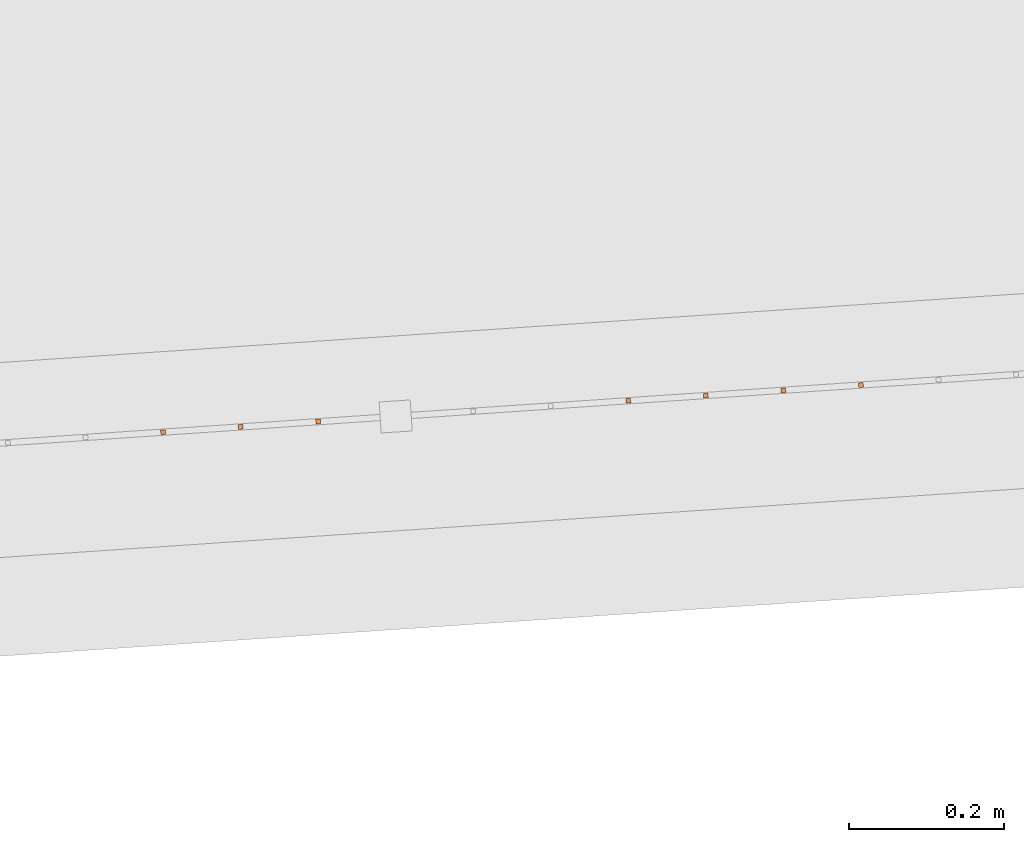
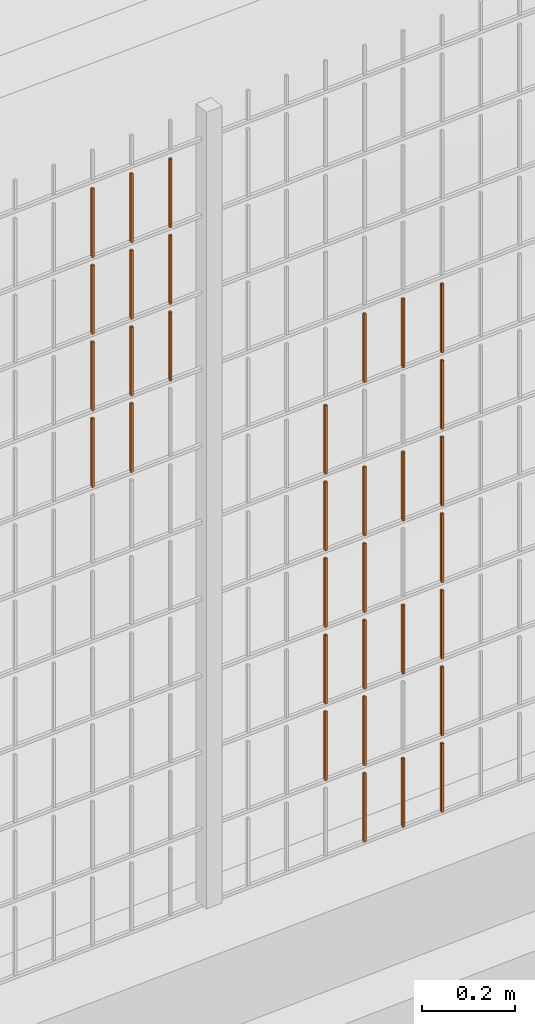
# One storey, part 373 of 1809: 33 proxies, 1 element without a shape of its own.
"""IFC2X3 building model written with IfcOpenShell, lengths in millimetres."""

from ifc_helpers import new_model, entity, si_unit, converted_unit, derived_unit, money_unit, direction, frame, origin_with_axes, place, context, subcontext, project, spatial, faceted_brep, source, transform, mapped, material, type_object, element, aggregate, save


model = new_model("IFC2X3")

# Units and contexts
model_context = context("Model", 3, precision=0.01, world=origin_with_axes(), true_north=direction((0.0, 1.0)))
body_context = subcontext(model_context, "Body", "Model", "MODEL_VIEW")
ifc_project = project(units=[si_unit("LENGTHUNIT", "METRE", prefix="MILLI"), si_unit("AREAUNIT", "SQUARE_METRE"), si_unit("VOLUMEUNIT", "CUBIC_METRE"), converted_unit("PLANEANGLEUNIT", "DEGREE", entity("IfcPlaneAngleMeasure", 0.0174532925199), si_unit("PLANEANGLEUNIT", "RADIAN"), dimensions=[0, 0, 0, 0, 0, 0, 0]), si_unit("SOLIDANGLEUNIT", "STERADIAN"), money_unit("EUR"), converted_unit("TIMEUNIT", "Year", entity("IfcTimeMeasure", 31556926.0), si_unit("TIMEUNIT", "SECOND"), dimensions=[0, 0, 1, 0, 0, 0, 0]), si_unit("MASSUNIT", "GRAM", prefix="KILO"), si_unit("THERMODYNAMICTEMPERATUREUNIT", "DEGREE_CELSIUS"), si_unit("LUMINOUSINTENSITYUNIT", "LUMEN"), si_unit("ENERGYUNIT", "JOULE", prefix="MEGA"), derived_unit("THERMALCONDUCTANCEUNIT", [(si_unit("POWERUNIT", "WATT"), 1), (si_unit("LENGTHUNIT", "METRE"), -1), (si_unit("THERMODYNAMICTEMPERATUREUNIT", "KELVIN"), -1)]), derived_unit("SPECIFICHEATCAPACITYUNIT", [(si_unit("ENERGYUNIT", "JOULE"), 1), (si_unit("MASSUNIT", "GRAM", prefix="KILO"), -1), (si_unit("THERMODYNAMICTEMPERATUREUNIT", "KELVIN"), -1)]), derived_unit("MASSDENSITYUNIT", [(si_unit("MASSUNIT", "GRAM", prefix="KILO"), 1), (si_unit("VOLUMEUNIT", "CUBIC_METRE"), -1)])], contexts=[model_context])

# Site, building, storey
site_placement = place(None, origin_with_axes())
site = spatial("IfcSite", under=ifc_project, at=site_placement, Name="Politse- ja Piirivalveameti ning Päästeameti ühishoone", CompositionType="ELEMENT")
building_placement = place(site_placement, origin_with_axes())
building = spatial("IfcBuilding", under=site, at=building_placement, Name="Politse- ja Piirivalveameti ning Päästeameti ühishoone", CompositionType="ELEMENT")
storey_placement = place(building_placement, origin_with_axes())
storey = spatial("IfcBuildingStorey", under=building, at=storey_placement, Name="Esimene korrus", CompositionType="ELEMENT", Elevation=0.0)

# Proxies
building_element_proxy_type_1 = type_object("IfcBuildingElementProxyType", Name="Railing Type", PredefinedType="NOTDEFINED")
proxy_1_placement = place(storey_placement, frame((89252.001212, -29183.4766571, 203.661247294), z_axis=(0.0, 0.0, 1.0), x_axis=(1.0, 0.0, 0.0)))
proxy_1 = element("IfcBuildingElementProxy", 1, at=proxy_1_placement, inside=storey, type_object=building_element_proxy_type_1, Name="PIIRDEAED")
ifc_material = material(Name="ET-03_Raud")
building_element_proxy_type_2 = type_object("IfcBuildingElementProxyType", Name="IfcBuildingElementProxy", PredefinedType="NOTDEFINED")
shared_shape_1 = source(origin_with_axes(), body_context, "Body", "Brep", [
    faceted_brep([(3.0, 3.0, -0.000752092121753), (-3.0, 3.0, -0.000752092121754), (-3.0, 3.0, 179.99926046), (3.0, 3.0, 179.99926046), (3.0, -3.0, 0.000752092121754), (-3.0, -3.0, 0.000752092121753), (-3.0, -3.0, 180.000764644), (3.0, -3.0, 180.000764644)], [[[0, 1, 2, 3]], [[0, 4, 5, 1]], [[1, 5, 6, 2]], [[3, 2, 6, 7]], [[4, 0, 3, 7]], [[5, 4, 7, 6]]]),
])
proxy_2_placement = place(proxy_1_placement, frame((-19981.1578998, -18647.4265716, 1422.21374743), z_axis=(0.0, 0.0, 1.0), x_axis=(1.0, 0.0, 0.0)))
proxy_2 = element("IfcBuildingElementProxy", 2, at=proxy_2_placement, type_object=building_element_proxy_type_2, material=ifc_material, Name="BALUSTER - 001", context=body_context, shape_type="MappedRepresentation", body=[
    mapped(shared_shape_1, transform((0.0, 0.0, 0.0), x_axis=(-0.0673926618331, 0.997726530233, 0.0), y_axis=(-0.997726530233, -0.0673926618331, 0.0), z_axis=(0.0, 0.0, 1.0))),
])
shared_shape_2 = source(origin_with_axes(), body_context, "Body", "Brep", [
    faceted_brep([(3.0, 3.0, -0.000752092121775), (-3.0, 3.0, -0.000752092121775), (-3.0, 3.0, 179.99926046), (3.0, 3.0, 179.99926046), (3.0, -3.0, 0.000752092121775), (-3.0, -3.0, 0.000752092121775), (-3.0, -3.0, 180.000764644), (3.0, -3.0, 180.000764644)], [[[0, 1, 2, 3]], [[0, 4, 5, 1]], [[1, 5, 6, 2]], [[3, 2, 6, 7]], [[4, 0, 3, 7]], [[5, 4, 7, 6]]]),
])
proxy_3_placement = place(proxy_1_placement, frame((-19182.9766757, -18593.5124421, 22.4143053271), z_axis=(0.0, 0.0, 1.0), x_axis=(1.0, 0.0, 0.0)))
proxy_3 = element("IfcBuildingElementProxy", 3, at=proxy_3_placement, type_object=building_element_proxy_type_2, material=ifc_material, Name="BALUSTER - 001", context=body_context, shape_type="MappedRepresentation", body=[
    mapped(shared_shape_2, transform((0.0, 0.0, 0.0), x_axis=(-0.0673926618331, 0.997726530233, 0.0), y_axis=(-0.997726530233, -0.0673926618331, 0.0), z_axis=(0.0, 0.0, 1.0))),
])
shared_shape_3 = source(origin_with_axes(), body_context, "Body", "Brep", [
    faceted_brep([(3.0, 3.0, -0.000752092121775), (-3.0, 3.0, -0.000752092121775), (-3.0, 3.0, 179.99926046), (3.0, 3.0, 179.99926046), (3.0, -3.0, 0.000752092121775), (-3.0, -3.0, 0.000752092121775), (-3.0, -3.0, 180.000764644), (3.0, -3.0, 180.000764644)], [[[0, 1, 2, 3]], [[0, 4, 5, 1]], [[1, 5, 6, 2]], [[3, 2, 6, 7]], [[4, 0, 3, 7]], [[5, 4, 7, 6]]]),
])
proxy_4_placement = place(proxy_1_placement, frame((-19182.9766757, -18593.5124421, 222.414305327), z_axis=(0.0, 0.0, 1.0), x_axis=(1.0, 0.0, 0.0)))
proxy_4 = element("IfcBuildingElementProxy", 4, at=proxy_4_placement, type_object=building_element_proxy_type_2, material=ifc_material, Name="BALUSTER - 001", context=body_context, shape_type="MappedRepresentation", body=[
    mapped(shared_shape_3, transform((0.0, 0.0, 0.0), x_axis=(-0.0673926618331, 0.997726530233, 0.0), y_axis=(-0.997726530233, -0.0673926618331, 0.0), z_axis=(0.0, 0.0, 1.0))),
])
shared_shape_4 = source(origin_with_axes(), body_context, "Body", "Brep", [
    faceted_brep([(3.0, 3.0, -0.000752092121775), (-3.0, 3.0, -0.000752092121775), (-3.0, 3.0, 179.99926046), (3.0, 3.0, 179.99926046), (3.0, -3.0, 0.000752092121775), (-3.0, -3.0, 0.000752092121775), (-3.0, -3.0, 180.000764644), (3.0, -3.0, 180.000764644)], [[[0, 1, 2, 3]], [[0, 4, 5, 1]], [[1, 5, 6, 2]], [[3, 2, 6, 7]], [[4, 0, 3, 7]], [[5, 4, 7, 6]]]),
])
proxy_5_placement = place(proxy_1_placement, frame((-20080.9305529, -18654.1658378, 1422.18867769), z_axis=(0.0, 0.0, 1.0), x_axis=(1.0, 0.0, 0.0)))
proxy_5 = element("IfcBuildingElementProxy", 5, at=proxy_5_placement, type_object=building_element_proxy_type_2, material=ifc_material, Name="BALUSTER - 001", context=body_context, shape_type="MappedRepresentation", body=[
    mapped(shared_shape_4, transform((0.0, 0.0, 0.0), x_axis=(-0.0673926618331, 0.997726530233, 0.0), y_axis=(-0.997726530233, -0.0673926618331, 0.0), z_axis=(0.0, 0.0, 1.0))),
])
shared_shape_5 = source(origin_with_axes(), body_context, "Body", "Brep", [
    faceted_brep([(3.0, 3.0, -0.000752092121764), (-3.0, 3.0, -0.000752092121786), (-3.0, 3.0, 179.99926046), (3.0, 3.0, 179.99926046), (3.0, -3.0, 0.000752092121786), (-3.0, -3.0, 0.000752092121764), (-3.0, -3.0, 180.000764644), (3.0, -3.0, 180.000764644)], [[[0, 1, 2, 3]], [[0, 4, 5, 1]], [[1, 5, 6, 2]], [[3, 2, 6, 7]], [[4, 0, 3, 7]], [[5, 4, 7, 6]]]),
])
proxy_6_placement = place(proxy_1_placement, frame((-19382.5219817, -18606.9909745, 222.364165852), z_axis=(0.0, 0.0, 1.0), x_axis=(1.0, 0.0, 0.0)))
proxy_6 = element("IfcBuildingElementProxy", 6, at=proxy_6_placement, type_object=building_element_proxy_type_2, material=ifc_material, Name="BALUSTER - 001", context=body_context, shape_type="MappedRepresentation", body=[
    mapped(shared_shape_5, transform((0.0, 0.0, 0.0), x_axis=(-0.0673926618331, 0.997726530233, 0.0), y_axis=(-0.997726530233, -0.0673926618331, 0.0), z_axis=(0.0, 0.0, 1.0))),
])
proxy_7_placement = place(proxy_1_placement, frame((-19382.5219817, -18606.9909745, 422.364165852), z_axis=(0.0, 0.0, 1.0), x_axis=(1.0, 0.0, 0.0)))
proxy_7 = element("IfcBuildingElementProxy", 7, at=proxy_7_placement, type_object=building_element_proxy_type_2, material=ifc_material, Name="BALUSTER - 001", context=body_context, shape_type="MappedRepresentation", body=[
    mapped(shared_shape_5, transform((0.0, 0.0, 0.0), x_axis=(-0.0673926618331, 0.997726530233, 0.0), y_axis=(-0.997726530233, -0.0673926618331, 0.0), z_axis=(0.0, 0.0, 1.0))),
])
shared_shape_6 = source(origin_with_axes(), body_context, "Body", "Brep", [
    faceted_brep([(3.0, 3.0, -0.000752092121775), (-3.0, 3.0, -0.000752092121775), (-3.0, 3.0, 179.99926046), (3.0, 3.0, 179.99926046), (3.0, -3.0, 0.000752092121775), (-3.0, -3.0, 0.000752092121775), (-3.0, -3.0, 180.000764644), (3.0, -3.0, 180.000764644)], [[[0, 1, 2, 3]], [[0, 4, 5, 1]], [[1, 5, 6, 2]], [[3, 2, 6, 7]], [[4, 0, 3, 7]], [[5, 4, 7, 6]]]),
])
proxy_8_placement = place(proxy_1_placement, frame((-19182.9766757, -18593.5124421, 422.414305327), z_axis=(0.0, 0.0, 1.0), x_axis=(1.0, 0.0, 0.0)))
proxy_8 = element("IfcBuildingElementProxy", 8, at=proxy_8_placement, type_object=building_element_proxy_type_2, material=ifc_material, Name="BALUSTER - 001", context=body_context, shape_type="MappedRepresentation", body=[
    mapped(shared_shape_6, transform((0.0, 0.0, 0.0), x_axis=(-0.0673926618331, 0.997726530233, 0.0), y_axis=(-0.997726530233, -0.0673926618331, 0.0), z_axis=(0.0, 0.0, 1.0))),
])
shared_shape_7 = source(origin_with_axes(), body_context, "Body", "Brep", [
    faceted_brep([(3.0, 3.0, -0.000752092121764), (-3.0, 3.0, -0.000752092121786), (-3.0, 3.0, 179.99926046), (3.0, 3.0, 179.99926046), (3.0, -3.0, 0.000752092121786), (-3.0, -3.0, 0.000752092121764), (-3.0, -3.0, 180.000764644), (3.0, -3.0, 180.000764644)], [[[0, 1, 2, 3]], [[0, 4, 5, 1]], [[1, 5, 6, 2]], [[3, 2, 6, 7]], [[4, 0, 3, 7]], [[5, 4, 7, 6]]]),
])
proxy_9_placement = place(proxy_1_placement, frame((-19482.2946347, -18613.7302407, 422.339096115), z_axis=(0.0, 0.0, 1.0), x_axis=(1.0, 0.0, 0.0)))
proxy_9 = element("IfcBuildingElementProxy", 9, at=proxy_9_placement, type_object=building_element_proxy_type_2, material=ifc_material, Name="BALUSTER - 001", context=body_context, shape_type="MappedRepresentation", body=[
    mapped(shared_shape_7, transform((0.0, 0.0, 0.0), x_axis=(-0.0673926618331, 0.997726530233, 0.0), y_axis=(-0.997726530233, -0.0673926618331, 0.0), z_axis=(0.0, 0.0, 1.0))),
])
shared_shape_8 = source(origin_with_axes(), body_context, "Body", "Brep", [
    faceted_brep([(3.0, 3.0, -0.000752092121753), (-3.0, 3.0, -0.000752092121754), (-3.0, 3.0, 179.99926046), (3.0, 3.0, 179.99926046), (3.0, -3.0, 0.000752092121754), (-3.0, -3.0, 0.000752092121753), (-3.0, -3.0, 180.000764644), (3.0, -3.0, 180.000764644)], [[[0, 1, 2, 3]], [[0, 4, 5, 1]], [[1, 5, 6, 2]], [[3, 2, 6, 7]], [[4, 0, 3, 7]], [[5, 4, 7, 6]]]),
])
proxy_10_placement = place(proxy_1_placement, frame((-19981.1578998, -18647.4265716, 1622.21374743), z_axis=(0.0, 0.0, 1.0), x_axis=(1.0, 0.0, 0.0)))
proxy_10 = element("IfcBuildingElementProxy", 10, at=proxy_10_placement, type_object=building_element_proxy_type_2, material=ifc_material, Name="BALUSTER - 001", context=body_context, shape_type="MappedRepresentation", body=[
    mapped(shared_shape_8, transform((0.0, 0.0, 0.0), x_axis=(-0.0673926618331, 0.997726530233, 0.0), y_axis=(-0.997726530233, -0.0673926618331, 0.0), z_axis=(0.0, 0.0, 1.0))),
])
shared_shape_9 = source(origin_with_axes(), body_context, "Body", "Brep", [
    faceted_brep([(3.0, 3.0, -0.000752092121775), (-3.0, 3.0, -0.000752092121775), (-3.0, 3.0, 179.99926046), (3.0, 3.0, 179.99926046), (3.0, -3.0, 0.000752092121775), (-3.0, -3.0, 0.000752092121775), (-3.0, -3.0, 180.000764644), (3.0, -3.0, 180.000764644)], [[[0, 1, 2, 3]], [[0, 4, 5, 1]], [[1, 5, 6, 2]], [[3, 2, 6, 7]], [[4, 0, 3, 7]], [[5, 4, 7, 6]]]),
])
proxy_11_placement = place(proxy_1_placement, frame((-19182.9766757, -18593.5124421, 622.414305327), z_axis=(0.0, 0.0, 1.0), x_axis=(1.0, 0.0, 0.0)))
proxy_11 = element("IfcBuildingElementProxy", 11, at=proxy_11_placement, type_object=building_element_proxy_type_2, material=ifc_material, Name="BALUSTER - 001", context=body_context, shape_type="MappedRepresentation", body=[
    mapped(shared_shape_9, transform((0.0, 0.0, 0.0), x_axis=(-0.0673926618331, 0.997726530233, 0.0), y_axis=(-0.997726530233, -0.0673926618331, 0.0), z_axis=(0.0, 0.0, 1.0))),
])
shared_shape_10 = source(origin_with_axes(), body_context, "Body", "Brep", [
    faceted_brep([(3.0, 3.0, -0.000752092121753), (-3.0, 3.0, -0.000752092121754), (-3.0, 3.0, 179.99926046), (3.0, 3.0, 179.99926046), (3.0, -3.0, 0.000752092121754), (-3.0, -3.0, 0.000752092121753), (-3.0, -3.0, 180.000764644), (3.0, -3.0, 180.000764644)], [[[0, 1, 2, 3]], [[0, 4, 5, 1]], [[1, 5, 6, 2]], [[3, 2, 6, 7]], [[4, 0, 3, 7]], [[5, 4, 7, 6]]]),
])
proxy_12_placement = place(proxy_1_placement, frame((-19981.1578998, -18647.4265716, 1822.21374743), z_axis=(0.0, 0.0, 1.0), x_axis=(1.0, 0.0, 0.0)))
proxy_12 = element("IfcBuildingElementProxy", 12, at=proxy_12_placement, type_object=building_element_proxy_type_2, material=ifc_material, Name="BALUSTER - 001", context=body_context, shape_type="MappedRepresentation", body=[
    mapped(shared_shape_10, transform((0.0, 0.0, 0.0), x_axis=(-0.0673926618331, 0.997726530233, 0.0), y_axis=(-0.997726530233, -0.0673926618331, 0.0), z_axis=(0.0, 0.0, 1.0))),
])
shared_shape_11 = source(origin_with_axes(), body_context, "Body", "Brep", [
    faceted_brep([(3.0, 3.0, -0.000752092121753), (-3.0, 3.0, -0.000752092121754), (-3.0, 3.0, 179.99926046), (3.0, 3.0, 179.99926046), (3.0, -3.0, 0.000752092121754), (-3.0, -3.0, 0.000752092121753), (-3.0, -3.0, 180.000764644), (3.0, -3.0, 180.000764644)], [[[0, 1, 2, 3]], [[0, 4, 5, 1]], [[1, 5, 6, 2]], [[3, 2, 6, 7]], [[4, 0, 3, 7]], [[5, 4, 7, 6]]]),
])
proxy_13_placement = place(proxy_1_placement, frame((-19981.1578998, -18647.4265716, 1222.21374743), z_axis=(0.0, 0.0, 1.0), x_axis=(1.0, 0.0, 0.0)))
proxy_13 = element("IfcBuildingElementProxy", 13, at=proxy_13_placement, type_object=building_element_proxy_type_2, material=ifc_material, Name="BALUSTER - 001", context=body_context, shape_type="MappedRepresentation", body=[
    mapped(shared_shape_11, transform((0.0, 0.0, 0.0), x_axis=(-0.0673926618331, 0.997726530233, 0.0), y_axis=(-0.997726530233, -0.0673926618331, 0.0), z_axis=(0.0, 0.0, 1.0))),
])
shared_shape_12 = source(origin_with_axes(), body_context, "Body", "Brep", [
    faceted_brep([(3.0, 3.0, -0.000752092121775), (-3.0, 3.0, -0.000752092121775), (-3.0, 3.0, 179.99926046), (3.0, 3.0, 179.99926046), (3.0, -3.0, 0.000752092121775), (-3.0, -3.0, 0.000752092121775), (-3.0, -3.0, 180.000764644), (3.0, -3.0, 180.000764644)], [[[0, 1, 2, 3]], [[0, 4, 5, 1]], [[1, 5, 6, 2]], [[3, 2, 6, 7]], [[4, 0, 3, 7]], [[5, 4, 7, 6]]]),
])
proxy_14_placement = place(proxy_1_placement, frame((-19182.9766757, -18593.5124421, 822.414305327), z_axis=(0.0, 0.0, 1.0), x_axis=(1.0, 0.0, 0.0)))
proxy_14 = element("IfcBuildingElementProxy", 14, at=proxy_14_placement, type_object=building_element_proxy_type_2, material=ifc_material, Name="BALUSTER - 001", context=body_context, shape_type="MappedRepresentation", body=[
    mapped(shared_shape_12, transform((0.0, 0.0, 0.0), x_axis=(-0.0673926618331, 0.997726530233, 0.0), y_axis=(-0.997726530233, -0.0673926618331, 0.0), z_axis=(0.0, 0.0, 1.0))),
])
shared_shape_13 = source(origin_with_axes(), body_context, "Body", "Brep", [
    faceted_brep([(3.0, 3.0, -0.000752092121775), (-3.0, 3.0, -0.000752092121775), (-3.0, 3.0, 179.99926046), (3.0, 3.0, 179.99926046), (3.0, -3.0, 0.000752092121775), (-3.0, -3.0, 0.000752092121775), (-3.0, -3.0, 180.000764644), (3.0, -3.0, 180.000764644)], [[[0, 1, 2, 3]], [[0, 4, 5, 1]], [[1, 5, 6, 2]], [[3, 2, 6, 7]], [[4, 0, 3, 7]], [[5, 4, 7, 6]]]),
])
proxy_15_placement = place(proxy_1_placement, frame((-20080.9305529, -18654.1658378, 1822.18867769), z_axis=(0.0, 0.0, 1.0), x_axis=(1.0, 0.0, 0.0)))
proxy_15 = element("IfcBuildingElementProxy", 15, at=proxy_15_placement, type_object=building_element_proxy_type_2, material=ifc_material, Name="BALUSTER - 001", context=body_context, shape_type="MappedRepresentation", body=[
    mapped(shared_shape_13, transform((0.0, 0.0, 0.0), x_axis=(-0.0673926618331, 0.997726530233, 0.0), y_axis=(-0.997726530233, -0.0673926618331, 0.0), z_axis=(0.0, 0.0, 1.0))),
])
shared_shape_14 = source(origin_with_axes(), body_context, "Body", "Brep", [
    faceted_brep([(3.0, 3.0, -0.000752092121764), (-3.0, 3.0, -0.000752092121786), (-3.0, 3.0, 179.99926046), (3.0, 3.0, 179.99926046), (3.0, -3.0, 0.000752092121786), (-3.0, -3.0, 0.000752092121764), (-3.0, -3.0, 180.000764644), (3.0, -3.0, 180.000764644)], [[[0, 1, 2, 3]], [[0, 4, 5, 1]], [[1, 5, 6, 2]], [[3, 2, 6, 7]], [[4, 0, 3, 7]], [[5, 4, 7, 6]]]),
])
proxy_16_placement = place(proxy_1_placement, frame((-19282.7493287, -18600.2517083, 1222.38923559), z_axis=(0.0, 0.0, 1.0), x_axis=(1.0, 0.0, 0.0)))
proxy_16 = element("IfcBuildingElementProxy", 16, at=proxy_16_placement, type_object=building_element_proxy_type_2, material=ifc_material, Name="BALUSTER - 001", context=body_context, shape_type="MappedRepresentation", body=[
    mapped(shared_shape_14, transform((0.0, 0.0, 0.0), x_axis=(-0.0673926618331, 0.997726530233, 0.0), y_axis=(-0.997726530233, -0.0673926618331, 0.0), z_axis=(0.0, 0.0, 1.0))),
])
shared_shape_15 = source(origin_with_axes(), body_context, "Body", "Brep", [
    faceted_brep([(3.0, 3.0, -0.000752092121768), (-3.0, 3.0, -0.000752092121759), (-3.00000000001, 2.99999999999, 179.99926046), (2.99999999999, 2.99999999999, 179.99926046), (3.0, -3.0, 0.000752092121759), (-3.0, -3.0, 0.000752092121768), (-3.00000000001, -3.00000000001, 180.000764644), (2.99999999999, -3.00000000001, 180.000764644)], [[[0, 1, 2, 3]], [[0, 4, 5, 1]], [[1, 5, 6, 2]], [[3, 2, 6, 7]], [[4, 0, 3, 7]], [[5, 4, 7, 6]]]),
])
proxy_17_placement = place(proxy_1_placement, frame((-19182.9766757, -18593.5124421, 1022.41430533), z_axis=(0.0, 0.0, 1.0), x_axis=(1.0, 0.0, 0.0)))
proxy_17 = element("IfcBuildingElementProxy", 17, at=proxy_17_placement, type_object=building_element_proxy_type_2, material=ifc_material, Name="BALUSTER - 001", context=body_context, shape_type="MappedRepresentation", body=[
    mapped(shared_shape_15, transform((0.0, 0.0, 0.0), x_axis=(-0.0673926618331, 0.997726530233, 0.0), y_axis=(-0.997726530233, -0.0673926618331, 0.0), z_axis=(0.0, 0.0, 1.0))),
])
shared_shape_16 = source(origin_with_axes(), body_context, "Body", "Brep", [
    faceted_brep([(3.0, 3.0, -0.000752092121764), (-3.0, 3.0, -0.000752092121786), (-3.0, 3.0, 179.99926046), (3.0, 3.0, 179.99926046), (3.0, -3.0, 0.000752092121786), (-3.0, -3.0, 0.000752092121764), (-3.0, -3.0, 180.000764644), (3.0, -3.0, 180.000764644)], [[[0, 1, 2, 3]], [[0, 4, 5, 1]], [[1, 5, 6, 2]], [[3, 2, 6, 7]], [[4, 0, 3, 7]], [[5, 4, 7, 6]]]),
])
proxy_18_placement = place(proxy_1_placement, frame((-19482.2946347, -18613.7302407, 822.339096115), z_axis=(0.0, 0.0, 1.0), x_axis=(1.0, 0.0, 0.0)))
proxy_18 = element("IfcBuildingElementProxy", 18, at=proxy_18_placement, type_object=building_element_proxy_type_2, material=ifc_material, Name="BALUSTER - 001", context=body_context, shape_type="MappedRepresentation", body=[
    mapped(shared_shape_16, transform((0.0, 0.0, 0.0), x_axis=(-0.0673926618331, 0.997726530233, 0.0), y_axis=(-0.997726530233, -0.0673926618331, 0.0), z_axis=(0.0, 0.0, 1.0))),
])
shared_shape_17 = source(origin_with_axes(), body_context, "Body", "Brep", [
    faceted_brep([(3.0, 3.0, -0.000752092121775), (-3.0, 3.0, -0.000752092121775), (-3.0, 3.0, 179.99926046), (3.0, 3.0, 179.99926046), (3.0, -3.0, 0.000752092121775), (-3.0, -3.0, 0.000752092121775), (-3.0, -3.0, 180.000764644), (3.0, -3.0, 180.000764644)], [[[0, 1, 2, 3]], [[0, 4, 5, 1]], [[1, 5, 6, 2]], [[3, 2, 6, 7]], [[4, 0, 3, 7]], [[5, 4, 7, 6]]]),
])
proxy_19_placement = place(proxy_1_placement, frame((-19182.9766757, -18593.5124421, 1222.41430533), z_axis=(0.0, 0.0, 1.0), x_axis=(1.0, 0.0, 0.0)))
proxy_19 = element("IfcBuildingElementProxy", 19, at=proxy_19_placement, type_object=building_element_proxy_type_2, material=ifc_material, Name="BALUSTER - 001", context=body_context, shape_type="MappedRepresentation", body=[
    mapped(shared_shape_17, transform((0.0, 0.0, 0.0), x_axis=(-0.0673926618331, 0.997726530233, 0.0), y_axis=(-0.997726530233, -0.0673926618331, 0.0), z_axis=(0.0, 0.0, 1.0))),
])
shared_shape_18 = source(origin_with_axes(), body_context, "Body", "Brep", [
    faceted_brep([(3.0, 3.0, -0.000752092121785), (-3.0, 3.0, -0.000752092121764), (-3.0, 3.0, 179.99926046), (3.0, 3.0, 179.99926046), (3.0, -3.0, 0.000752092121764), (-3.0, -3.0, 0.000752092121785), (-3.0, -3.0, 180.000764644), (3.0, -3.0, 180.000764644)], [[[0, 1, 2, 3]], [[0, 4, 5, 1]], [[1, 5, 6, 2]], [[3, 2, 6, 7]], [[4, 0, 3, 7]], [[5, 4, 7, 6]]]),
])
proxy_20_placement = place(proxy_1_placement, frame((-19881.3852468, -18640.6873054, 1422.23881717), z_axis=(0.0, 0.0, 1.0), x_axis=(1.0, 0.0, 0.0)))
proxy_20 = element("IfcBuildingElementProxy", 20, at=proxy_20_placement, type_object=building_element_proxy_type_2, material=ifc_material, Name="BALUSTER - 001", context=body_context, shape_type="MappedRepresentation", body=[
    mapped(shared_shape_18, transform((0.0, 0.0, 0.0), x_axis=(-0.0673926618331, 0.997726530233, 0.0), y_axis=(-0.997726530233, -0.0673926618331, 0.0), z_axis=(0.0, 0.0, 1.0))),
])
proxy_21_placement = place(proxy_1_placement, frame((-19881.3852468, -18640.6873054, 1622.23881717), z_axis=(0.0, 0.0, 1.0), x_axis=(1.0, 0.0, 0.0)))
proxy_21 = element("IfcBuildingElementProxy", 21, at=proxy_21_placement, type_object=building_element_proxy_type_2, material=ifc_material, Name="BALUSTER - 001", context=body_context, shape_type="MappedRepresentation", body=[
    mapped(shared_shape_18, transform((0.0, 0.0, 0.0), x_axis=(-0.0673926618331, 0.997726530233, 0.0), y_axis=(-0.997726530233, -0.0673926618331, 0.0), z_axis=(0.0, 0.0, 1.0))),
])
shared_shape_19 = source(origin_with_axes(), body_context, "Body", "Brep", [
    faceted_brep([(3.0, 3.0, -0.000752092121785), (-3.0, 3.0, -0.000752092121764), (-3.0, 3.0, 179.99926046), (3.0, 3.0, 179.99926046), (3.0, -3.0, 0.000752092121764), (-3.0, -3.0, 0.000752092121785), (-3.0, -3.0, 180.000764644), (3.0, -3.0, 180.000764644)], [[[0, 1, 2, 3]], [[0, 4, 5, 1]], [[1, 5, 6, 2]], [[3, 2, 6, 7]], [[4, 0, 3, 7]], [[5, 4, 7, 6]]]),
])
proxy_22_placement = place(proxy_1_placement, frame((-19282.7493287, -18600.2517083, 822.38923559), z_axis=(0.0, 0.0, 1.0), x_axis=(1.0, 0.0, 0.0)))
proxy_22 = element("IfcBuildingElementProxy", 22, at=proxy_22_placement, type_object=building_element_proxy_type_2, material=ifc_material, Name="BALUSTER - 001", context=body_context, shape_type="MappedRepresentation", body=[
    mapped(shared_shape_19, transform((0.0, 0.0, 0.0), x_axis=(-0.0673926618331, 0.997726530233, 0.0), y_axis=(-0.997726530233, -0.0673926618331, 0.0), z_axis=(0.0, 0.0, 1.0))),
])
proxy_23_placement = place(proxy_1_placement, frame((-19881.3852468, -18640.6873054, 1822.23881717), z_axis=(0.0, 0.0, 1.0), x_axis=(1.0, 0.0, 0.0)))
proxy_23 = element("IfcBuildingElementProxy", 23, at=proxy_23_placement, type_object=building_element_proxy_type_2, material=ifc_material, Name="BALUSTER - 001", context=body_context, shape_type="MappedRepresentation", body=[
    mapped(shared_shape_19, transform((0.0, 0.0, 0.0), x_axis=(-0.0673926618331, 0.997726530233, 0.0), y_axis=(-0.997726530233, -0.0673926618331, 0.0), z_axis=(0.0, 0.0, 1.0))),
])
shared_shape_20 = source(origin_with_axes(), body_context, "Body", "Brep", [
    faceted_brep([(3.0, 3.0, -0.000752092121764), (-3.0, 3.0, -0.000752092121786), (-3.0, 3.0, 179.99926046), (3.0, 3.0, 179.99926046), (3.0, -3.0, 0.000752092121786), (-3.0, -3.0, 0.000752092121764), (-3.0, -3.0, 180.000764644), (3.0, -3.0, 180.000764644)], [[[0, 1, 2, 3]], [[0, 4, 5, 1]], [[1, 5, 6, 2]], [[3, 2, 6, 7]], [[4, 0, 3, 7]], [[5, 4, 7, 6]]]),
])
proxy_24_placement = place(proxy_1_placement, frame((-19382.5219817, -18606.9909745, 22.3641658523), z_axis=(0.0, 0.0, 1.0), x_axis=(1.0, 0.0, 0.0)))
proxy_24 = element("IfcBuildingElementProxy", 24, at=proxy_24_placement, type_object=building_element_proxy_type_2, material=ifc_material, Name="BALUSTER - 001", context=body_context, shape_type="MappedRepresentation", body=[
    mapped(shared_shape_20, transform((0.0, 0.0, 0.0), x_axis=(-0.0673926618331, 0.997726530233, 0.0), y_axis=(-0.997726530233, -0.0673926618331, 0.0), z_axis=(0.0, 0.0, 1.0))),
])
shared_shape_21 = source(origin_with_axes(), body_context, "Body", "Brep", [
    faceted_brep([(3.0, 3.0, -0.000752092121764), (-3.0, 3.0, -0.000752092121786), (-3.0, 3.0, 179.99926046), (3.0, 3.0, 179.99926046), (3.0, -3.0, 0.000752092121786), (-3.0, -3.0, 0.000752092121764), (-3.0, -3.0, 180.000764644), (3.0, -3.0, 180.000764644)], [[[0, 1, 2, 3]], [[0, 4, 5, 1]], [[1, 5, 6, 2]], [[3, 2, 6, 7]], [[4, 0, 3, 7]], [[5, 4, 7, 6]]]),
])
proxy_25_placement = place(proxy_1_placement, frame((-19482.2946347, -18613.7302407, 222.339096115), z_axis=(0.0, 0.0, 1.0), x_axis=(1.0, 0.0, 0.0)))
proxy_25 = element("IfcBuildingElementProxy", 25, at=proxy_25_placement, type_object=building_element_proxy_type_2, material=ifc_material, Name="BALUSTER - 001", context=body_context, shape_type="MappedRepresentation", body=[
    mapped(shared_shape_21, transform((0.0, 0.0, 0.0), x_axis=(-0.0673926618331, 0.997726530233, 0.0), y_axis=(-0.997726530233, -0.0673926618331, 0.0), z_axis=(0.0, 0.0, 1.0))),
])
proxy_26_placement = place(proxy_1_placement, frame((-19482.2946347, -18613.7302407, 622.339096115), z_axis=(0.0, 0.0, 1.0), x_axis=(1.0, 0.0, 0.0)))
proxy_26 = element("IfcBuildingElementProxy", 26, at=proxy_26_placement, type_object=building_element_proxy_type_2, material=ifc_material, Name="BALUSTER - 001", context=body_context, shape_type="MappedRepresentation", body=[
    mapped(shared_shape_21, transform((0.0, 0.0, 0.0), x_axis=(-0.0673926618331, 0.997726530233, 0.0), y_axis=(-0.997726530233, -0.0673926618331, 0.0), z_axis=(0.0, 0.0, 1.0))),
])
shared_shape_22 = source(origin_with_axes(), body_context, "Body", "Brep", [
    faceted_brep([(3.0, 3.0, -0.000752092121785), (-3.0, 3.0, -0.000752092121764), (-3.0, 3.0, 179.99926046), (3.0, 3.0, 179.99926046), (3.0, -3.0, 0.000752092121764), (-3.0, -3.0, 0.000752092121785), (-3.0, -3.0, 180.000764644), (3.0, -3.0, 180.000764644)], [[[0, 1, 2, 3]], [[0, 4, 5, 1]], [[1, 5, 6, 2]], [[3, 2, 6, 7]], [[4, 0, 3, 7]], [[5, 4, 7, 6]]]),
])
proxy_27_placement = place(proxy_1_placement, frame((-19282.7493287, -18600.2517083, 422.38923559), z_axis=(0.0, 0.0, 1.0), x_axis=(1.0, 0.0, 0.0)))
proxy_27 = element("IfcBuildingElementProxy", 27, at=proxy_27_placement, type_object=building_element_proxy_type_2, material=ifc_material, Name="BALUSTER - 001", context=body_context, shape_type="MappedRepresentation", body=[
    mapped(shared_shape_22, transform((0.0, 0.0, 0.0), x_axis=(-0.0673926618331, 0.997726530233, 0.0), y_axis=(-0.997726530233, -0.0673926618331, 0.0), z_axis=(0.0, 0.0, 1.0))),
])
shared_shape_23 = source(origin_with_axes(), body_context, "Body", "Brep", [
    faceted_brep([(3.0, 3.0, -0.000752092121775), (-3.0, 3.0, -0.000752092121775), (-3.0, 3.0, 179.99926046), (3.0, 3.0, 179.99926046), (3.0, -3.0, 0.000752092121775), (-3.0, -3.0, 0.000752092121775), (-3.0, -3.0, 180.000764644), (3.0, -3.0, 180.000764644)], [[[0, 1, 2, 3]], [[0, 4, 5, 1]], [[1, 5, 6, 2]], [[3, 2, 6, 7]], [[4, 0, 3, 7]], [[5, 4, 7, 6]]]),
])
proxy_28_placement = place(proxy_1_placement, frame((-19382.5219817, -18606.9909745, 1222.36416585), z_axis=(0.0, 0.0, 1.0), x_axis=(1.0, 0.0, 0.0)))
proxy_28 = element("IfcBuildingElementProxy", 28, at=proxy_28_placement, type_object=building_element_proxy_type_2, material=ifc_material, Name="BALUSTER - 001", context=body_context, shape_type="MappedRepresentation", body=[
    mapped(shared_shape_23, transform((0.0, 0.0, 0.0), x_axis=(-0.0673926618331, 0.997726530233, 0.0), y_axis=(-0.997726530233, -0.0673926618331, 0.0), z_axis=(0.0, 0.0, 1.0))),
])
proxy_29_placement = place(proxy_1_placement, frame((-20080.9305529, -18654.1658378, 1222.18867769), z_axis=(0.0, 0.0, 1.0), x_axis=(1.0, 0.0, 0.0)))
proxy_29 = element("IfcBuildingElementProxy", 29, at=proxy_29_placement, type_object=building_element_proxy_type_2, material=ifc_material, Name="BALUSTER - 001", context=body_context, shape_type="MappedRepresentation", body=[
    mapped(shared_shape_23, transform((0.0, 0.0, 0.0), x_axis=(-0.0673926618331, 0.997726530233, 0.0), y_axis=(-0.997726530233, -0.0673926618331, 0.0), z_axis=(0.0, 0.0, 1.0))),
])
shared_shape_24 = source(origin_with_axes(), body_context, "Body", "Brep", [
    faceted_brep([(3.0, 3.0, -0.000752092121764), (-3.0, 3.0, -0.000752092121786), (-3.0, 3.0, 179.99926046), (3.0, 3.0, 179.99926046), (3.0, -3.0, 0.000752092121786), (-3.0, -3.0, 0.000752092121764), (-3.0, -3.0, 180.000764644), (3.0, -3.0, 180.000764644)], [[[0, 1, 2, 3]], [[0, 4, 5, 1]], [[1, 5, 6, 2]], [[3, 2, 6, 7]], [[4, 0, 3, 7]], [[5, 4, 7, 6]]]),
])
proxy_30_placement = place(proxy_1_placement, frame((-19382.5219817, -18606.9909745, 622.364165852), z_axis=(0.0, 0.0, 1.0), x_axis=(1.0, 0.0, 0.0)))
proxy_30 = element("IfcBuildingElementProxy", 30, at=proxy_30_placement, type_object=building_element_proxy_type_2, material=ifc_material, Name="BALUSTER - 001", context=body_context, shape_type="MappedRepresentation", body=[
    mapped(shared_shape_24, transform((0.0, 0.0, 0.0), x_axis=(-0.0673926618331, 0.997726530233, 0.0), y_axis=(-0.997726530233, -0.0673926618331, 0.0), z_axis=(0.0, 0.0, 1.0))),
])
shared_shape_25 = source(origin_with_axes(), body_context, "Body", "Brep", [
    faceted_brep([(3.0, 3.0, -0.000752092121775), (-3.0, 3.0, -0.000752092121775), (-3.0, 3.0, 179.99926046), (3.0, 3.0, 179.99926046), (3.0, -3.0, 0.000752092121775), (-3.0, -3.0, 0.000752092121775), (-3.0, -3.0, 180.000764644), (3.0, -3.0, 180.000764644)], [[[0, 1, 2, 3]], [[0, 4, 5, 1]], [[1, 5, 6, 2]], [[3, 2, 6, 7]], [[4, 0, 3, 7]], [[5, 4, 7, 6]]]),
])
proxy_31_placement = place(proxy_1_placement, frame((-20080.9305529, -18654.1658378, 1622.18867769), z_axis=(0.0, 0.0, 1.0), x_axis=(1.0, 0.0, 0.0)))
proxy_31 = element("IfcBuildingElementProxy", 31, at=proxy_31_placement, type_object=building_element_proxy_type_2, material=ifc_material, Name="BALUSTER - 001", context=body_context, shape_type="MappedRepresentation", body=[
    mapped(shared_shape_25, transform((0.0, 0.0, 0.0), x_axis=(-0.0673926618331, 0.997726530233, 0.0), y_axis=(-0.997726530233, -0.0673926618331, 0.0), z_axis=(0.0, 0.0, 1.0))),
])
shared_shape_26 = source(origin_with_axes(), body_context, "Body", "Brep", [
    faceted_brep([(3.0, 3.0, -0.000752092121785), (-3.0, 3.0, -0.000752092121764), (-3.0, 3.0, 179.99926046), (3.0, 3.0, 179.99926046), (3.0, -3.0, 0.000752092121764), (-3.0, -3.0, 0.000752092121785), (-3.0, -3.0, 180.000764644), (3.0, -3.0, 180.000764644)], [[[0, 1, 2, 3]], [[0, 4, 5, 1]], [[1, 5, 6, 2]], [[3, 2, 6, 7]], [[4, 0, 3, 7]], [[5, 4, 7, 6]]]),
])
proxy_32_placement = place(proxy_1_placement, frame((-19282.7493287, -18600.2517083, 22.3892355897), z_axis=(0.0, 0.0, 1.0), x_axis=(1.0, 0.0, 0.0)))
proxy_32 = element("IfcBuildingElementProxy", 32, at=proxy_32_placement, type_object=building_element_proxy_type_2, material=ifc_material, Name="BALUSTER - 001", context=body_context, shape_type="MappedRepresentation", body=[
    mapped(shared_shape_26, transform((0.0, 0.0, 0.0), x_axis=(-0.0673926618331, 0.997726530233, 0.0), y_axis=(-0.997726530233, -0.0673926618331, 0.0), z_axis=(0.0, 0.0, 1.0))),
])
shared_shape_27 = source(origin_with_axes(), body_context, "Body", "Brep", [
    faceted_brep([(3.0, 3.0, -0.000752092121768), (-3.0, 3.0, -0.000752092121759), (-3.00000000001, 2.99999999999, 179.99926046), (2.99999999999, 2.99999999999, 179.99926046), (3.0, -3.0, 0.000752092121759), (-3.0, -3.0, 0.000752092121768), (-3.00000000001, -3.00000000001, 180.000764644), (2.99999999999, -3.00000000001, 180.000764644)], [[[0, 1, 2, 3]], [[0, 4, 5, 1]], [[1, 5, 6, 2]], [[3, 2, 6, 7]], [[4, 0, 3, 7]], [[5, 4, 7, 6]]]),
])
proxy_33_placement = place(proxy_1_placement, frame((-19482.2946347, -18613.7302407, 1022.33909611), z_axis=(0.0, 0.0, 1.0), x_axis=(1.0, 0.0, 0.0)))
proxy_33 = element("IfcBuildingElementProxy", 33, at=proxy_33_placement, type_object=building_element_proxy_type_2, material=ifc_material, Name="BALUSTER - 001", context=body_context, shape_type="MappedRepresentation", body=[
    mapped(shared_shape_27, transform((0.0, 0.0, 0.0), x_axis=(-0.0673926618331, 0.997726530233, 0.0), y_axis=(-0.997726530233, -0.0673926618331, 0.0), z_axis=(0.0, 0.0, 1.0))),
])
shared_shape_28 = source(origin_with_axes(), body_context, "Body", "Brep", [
    faceted_brep([(3.0, 3.0, -0.000752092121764), (-3.0, 3.0, -0.000752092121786), (-3.0, 3.0, 179.99926046), (3.0, 3.0, 179.99926046), (3.0, -3.0, 0.000752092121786), (-3.0, -3.0, 0.000752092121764), (-3.0, -3.0, 180.000764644), (3.0, -3.0, 180.000764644)], [[[0, 1, 2, 3]], [[0, 4, 5, 1]], [[1, 5, 6, 2]], [[3, 2, 6, 7]], [[4, 0, 3, 7]], [[5, 4, 7, 6]]]),
])
proxy_34_placement = place(proxy_1_placement, frame((-19382.5219817, -18606.9909745, 822.364165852), z_axis=(0.0, 0.0, 1.0), x_axis=(1.0, 0.0, 0.0)))
proxy_34 = element("IfcBuildingElementProxy", 34, at=proxy_34_placement, type_object=building_element_proxy_type_2, material=ifc_material, Name="BALUSTER - 001", context=body_context, shape_type="MappedRepresentation", body=[
    mapped(shared_shape_28, transform((0.0, 0.0, 0.0), x_axis=(-0.0673926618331, 0.997726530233, 0.0), y_axis=(-0.997726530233, -0.0673926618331, 0.0), z_axis=(0.0, 0.0, 1.0))),
])
aggregate(proxy_1, [proxy_3, proxy_32, proxy_24, proxy_4, proxy_6, proxy_25, proxy_8, proxy_27, proxy_7, proxy_9, proxy_11, proxy_30, proxy_26, proxy_14, proxy_22, proxy_34, proxy_18, proxy_17, proxy_33, proxy_19, proxy_16, proxy_28, proxy_13, proxy_29, proxy_20, proxy_2, proxy_5, proxy_21, proxy_10, proxy_31, proxy_23, proxy_12, proxy_15])

save(model, "model.ifc")
